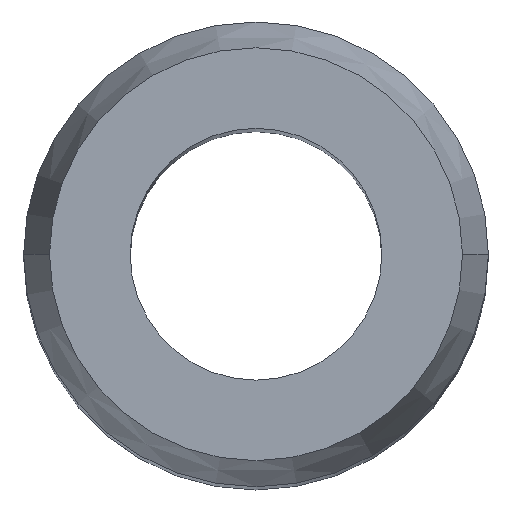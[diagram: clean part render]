
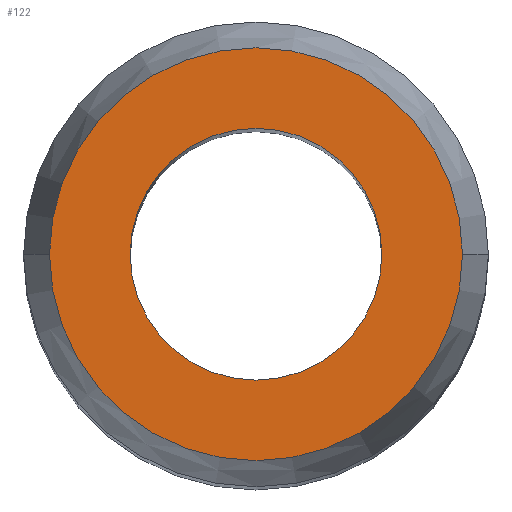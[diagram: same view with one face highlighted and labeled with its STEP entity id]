
A CAD part, top view. The second image highlights one B-rep face of the part: STEP entity #122.
In plain terms, the highlighted planar face has unit normal (0, 0, 1).
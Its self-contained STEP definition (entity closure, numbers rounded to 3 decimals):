
#103=PLANE('',#314);
#108=FACE_BOUND('',#153,.T.);
#109=FACE_BOUND('',#154,.T.);
#122=ADVANCED_FACE('',(#108,#109),#103,.T.);
#153=EDGE_LOOP('',(#219,#220));
#154=EDGE_LOOP('',(#221,#222));
#156=CIRCLE('',#287,6.5);
#157=CIRCLE('',#289,6.5);
#169=CIRCLE('',#310,10.66);
#170=CIRCLE('',#312,10.66);
#219=ORIENTED_EDGE('',*,*,#264,.T.);
#220=ORIENTED_EDGE('',*,*,#262,.T.);
#221=ORIENTED_EDGE('',*,*,#242,.F.);
#222=ORIENTED_EDGE('',*,*,#243,.F.);
#223=VERTEX_POINT('',#387);
#226=VERTEX_POINT('',#392);
#237=VERTEX_POINT('',#433);
#238=VERTEX_POINT('',#435);
#242=EDGE_CURVE('',#226,#223,#156,.T.);
#243=EDGE_CURVE('',#223,#226,#157,.T.);
#262=EDGE_CURVE('',#238,#237,#169,.T.);
#264=EDGE_CURVE('',#237,#238,#170,.T.);
#287=AXIS2_PLACEMENT_3D('',#393,#321,#322);
#289=AXIS2_PLACEMENT_3D('',#395,#325,#326);
#310=AXIS2_PLACEMENT_3D('',#434,#374,#375);
#312=AXIS2_PLACEMENT_3D('',#438,#379,#380);
#314=AXIS2_PLACEMENT_3D('',#440,#383,#384);
#321=DIRECTION('',(0.,0.,1.));
#322=DIRECTION('',(0.,-1.,0.));
#325=DIRECTION('',(0.,0.,1.));
#326=DIRECTION('',(0.,1.,0.));
#374=DIRECTION('',(0.,0.,1.));
#375=DIRECTION('',(0.,-1.,0.));
#379=DIRECTION('',(0.,0.,1.));
#380=DIRECTION('',(0.,1.,0.));
#383=DIRECTION('',(0.,0.,1.));
#384=DIRECTION('',(0.,1.,0.));
#387=CARTESIAN_POINT('',(-6.5,0.,100.));
#392=CARTESIAN_POINT('',(6.5,0.,100.));
#393=CARTESIAN_POINT('',(0.,0.,100.));
#395=CARTESIAN_POINT('',(0.,0.,100.));
#433=CARTESIAN_POINT('',(-10.66,0.,100.));
#434=CARTESIAN_POINT('',(0.,0.,100.));
#435=CARTESIAN_POINT('',(10.66,0.,100.));
#438=CARTESIAN_POINT('',(0.,0.,100.));
#440=CARTESIAN_POINT('',(0.,0.,100.));
